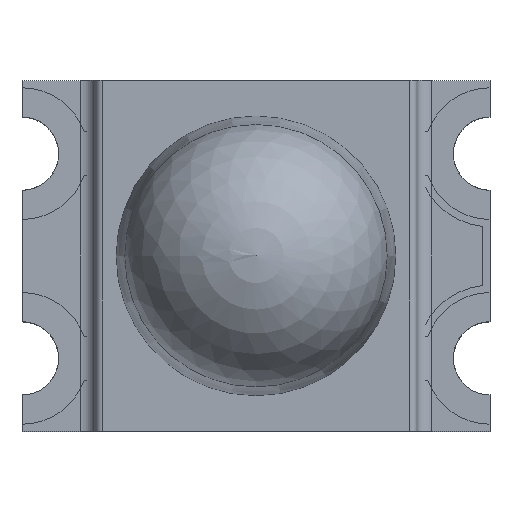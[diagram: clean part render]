
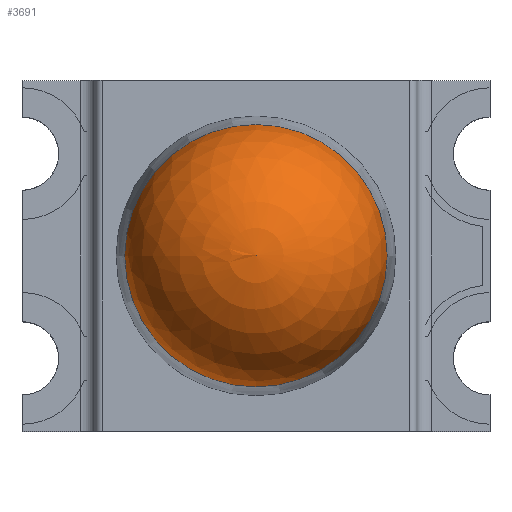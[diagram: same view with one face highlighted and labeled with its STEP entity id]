
A CAD part, top view. The second image highlights one B-rep face of the part: STEP entity #3691.
In plain terms, the highlighted spherical face has radius 0.9 mm.
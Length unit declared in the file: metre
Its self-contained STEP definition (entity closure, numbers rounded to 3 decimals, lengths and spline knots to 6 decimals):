
#19=SPHERICAL_SURFACE('',#4005,0.0009);
#206=CIRCLE('',#4006,0.000897);
#1142=ORIENTED_EDGE('',*,*,#1755,.T.);
#1755=EDGE_CURVE('',#2135,#2135,#206,.T.);
#2135=VERTEX_POINT('',#6183);
#3154=EDGE_LOOP('',(#1142));
#3361=FACE_BOUND('',#3154,.T.);
#3691=ADVANCED_FACE('',(#3361),#19,.T.);
#4005=AXIS2_PLACEMENT_3D('',#6181,#4780,#4781);
#4006=AXIS2_PLACEMENT_3D('',#6182,#4782,#4783);
#4780=DIRECTION('',(0.,0.,1.));
#4781=DIRECTION('',(-1.,0.,0.));
#4782=DIRECTION('',(0.,0.,1.));
#4783=DIRECTION('',(1.,0.,0.));
#6181=CARTESIAN_POINT('',(0.,0.,0.0016));
#6182=CARTESIAN_POINT('',(0.,0.,0.001678));
#6183=CARTESIAN_POINT('',(0.000897,0.,0.001678));
